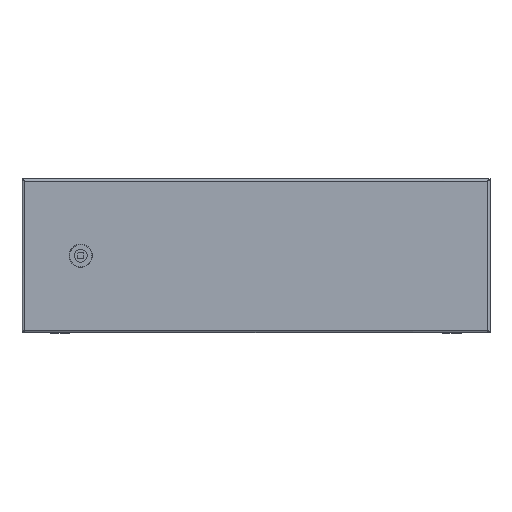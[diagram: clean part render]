
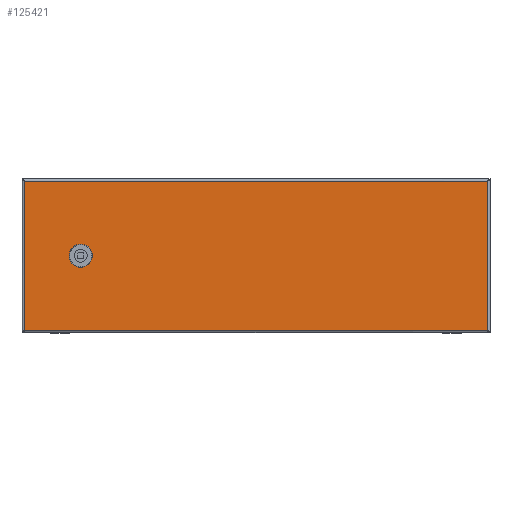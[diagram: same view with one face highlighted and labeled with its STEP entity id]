
A CAD part, top view. The second image highlights one B-rep face of the part: STEP entity #125421.
In plain terms, the highlighted planar face has unit normal (0, 0, 1).
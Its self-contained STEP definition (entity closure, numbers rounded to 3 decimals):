
#123071=CARTESIAN_POINT(' ',(591.2,192.2,0.));
#123076=DIRECTION(' ',(-1.,0.,0.));
#123081=VECTOR(' ',#123076,1.);
#123086=LINE('',#123071,#123081);
#123091=CARTESIAN_POINT(' ',(591.2,192.2,0.));
#123092=VERTEX_POINT(' ',#123091);
#123096=CARTESIAN_POINT(' ',(2.8,192.2,0.));
#123097=VERTEX_POINT(' ',#123096);
#123101=EDGE_CURVE(' ',#123092,#123097,#123086,.T.);
#125281=DIRECTION(' ',(-0.,-0.,1.));
#125286=CARTESIAN_POINT(' ',(591.2,2.8,0.));
#125291=DIRECTION(' ',(0.,1.,0.));
#125296=AXIS2_PLACEMENT_3D(' ',#125286,#125281,#125291);
#125301=PLANE('NONE',#125296);
#125306=CARTESIAN_POINT(' ',(2.8,2.8,0.));
#125311=DIRECTION(' ',(1.,0.,0.));
#125316=VECTOR(' ',#125311,1.);
#125321=LINE('',#125306,#125316);
#125326=CARTESIAN_POINT(' ',(2.8,2.8,0.));
#125327=VERTEX_POINT(' ',#125326);
#125331=CARTESIAN_POINT(' ',(591.2,2.8,0.));
#125332=VERTEX_POINT(' ',#125331);
#125336=EDGE_CURVE(' ',#125327,#125332,#125321,.T.);
#125341=ORIENTED_EDGE(' ',*,*,#125336,.T.);
#125346=CARTESIAN_POINT(' ',(591.2,192.2,0.));
#125351=DIRECTION(' ',(0.,-1.,0.));
#125356=VECTOR(' ',#125351,1.);
#125361=LINE('',#125346,#125356);
#125366=EDGE_CURVE(' ',#123092,#125332,#125361,.T.);
#125371=ORIENTED_EDGE(' ',*,*,#125366,.F.);
#125376=ORIENTED_EDGE(' ',*,*,#123101,.T.);
#125381=CARTESIAN_POINT(' ',(2.8,192.2,0.));
#125386=DIRECTION(' ',(0.,-1.,0.));
#125391=VECTOR(' ',#125386,1.);
#125396=LINE('',#125381,#125391);
#125401=EDGE_CURVE(' ',#123097,#125327,#125396,.T.);
#125406=ORIENTED_EDGE(' ',*,*,#125401,.T.);
#125411=EDGE_LOOP(' ',(#125341,#125371,#125376,#125406));
#125416=FACE_OUTER_BOUND(' ',#125411,.T.);
#125421=ADVANCED_FACE('NONE',(#125416),#125301,.T.);
